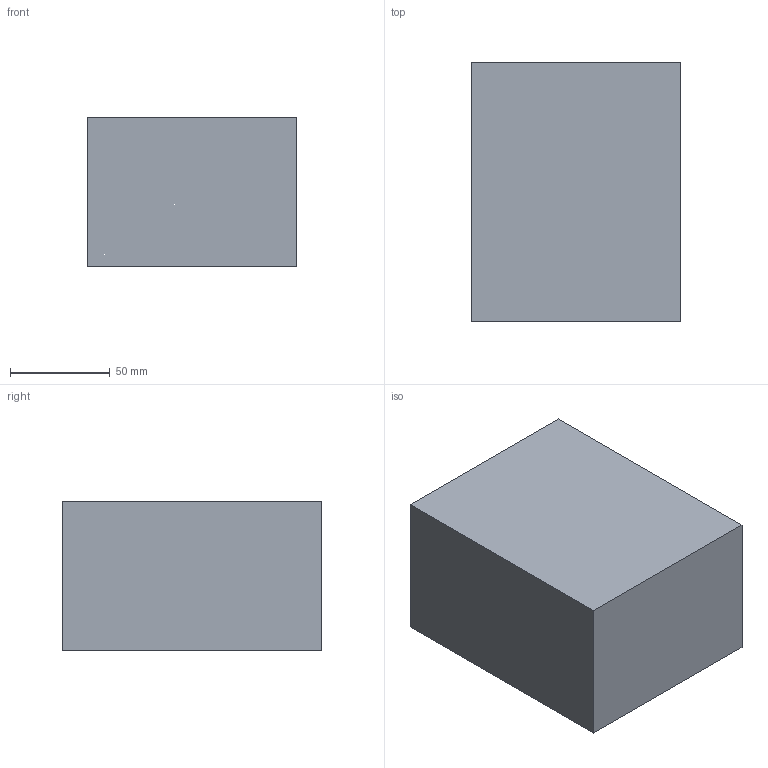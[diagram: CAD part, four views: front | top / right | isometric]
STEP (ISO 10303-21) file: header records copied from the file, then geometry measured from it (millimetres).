
FILE_DESCRIPTION(('Open CASCADE Model'),'2;1');
FILE_NAME('Open CASCADE Shape Model','2026-10-04T01:02:27',('Author'),( 'Open CASCADE'),'Open CASCADE STEP processor 8.0','Open CASCADE 8.0' ,'Unknown');
FILE_SCHEMA(('AUTOMOTIVE_DESIGN { 1 0 10303 214 1 1 1 1 }'));
Length unit declared in the file: millimetre
Products named in the file (1): Open CASCADE STEP translator 8.0 84
Bounding box: 105 x 130 x 75 mm (x, y, z)
Volume: 1023750 mm3; surface area: 62550 mm2
Topology: 1 solids, 1 shells, 6 faces, 12 edges, 8 vertices
Faces by surface type: plane 6
Entity records: 322 total; most frequent: CARTESIAN_POINT 51, DIRECTION 50, LINE 36, VECTOR 36, ORIENTED_EDGE 24, PCURVE 24, DEFINITIONAL_REPRESENTATION 24, EDGE_CURVE 12
